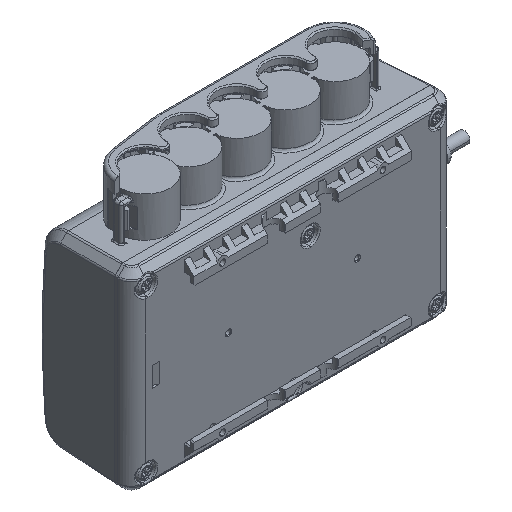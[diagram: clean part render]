
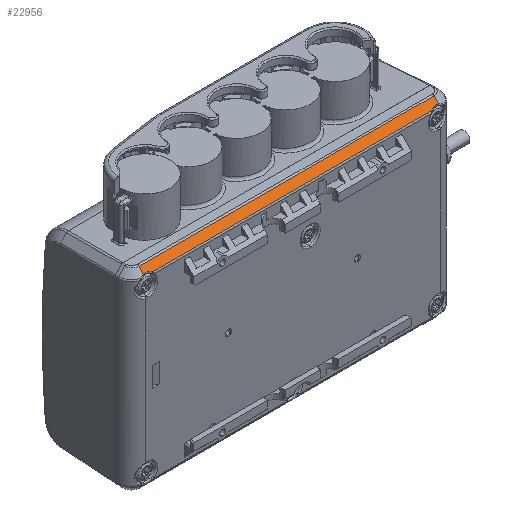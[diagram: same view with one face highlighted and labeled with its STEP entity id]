
A CAD part, isometric view. The second image highlights one B-rep face of the part: STEP entity #22956.
In plain terms, the highlighted planar face has unit normal (0, -0.731, 0.682).
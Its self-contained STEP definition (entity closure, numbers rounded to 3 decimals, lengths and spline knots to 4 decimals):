
#179 = DIRECTION ( 'NONE',  ( 0., 0.731, -0.682 ) ) ;
#695 = ORIENTED_EDGE ( 'NONE', *, *, #34438, .T. ) ;
#5685 = CARTESIAN_POINT ( 'NONE',  ( 0., -0.1576, -0.0055 ) ) ;
#7297 = VERTEX_POINT ( 'NONE', #57165 ) ;
#8635 = ORIENTED_EDGE ( 'NONE', *, *, #21203, .F. ) ;
#8913 = ORIENTED_EDGE ( 'NONE', *, *, #16347, .T. ) ;
#9006 = CARTESIAN_POINT ( 'NONE',  ( 5.1953, -0.243, -0.0972 ) ) ;
#10117 = CARTESIAN_POINT ( 'NONE',  ( 0.3295, -0.241, -0.095 ) ) ;
#11899 = FACE_OUTER_BOUND ( 'NONE', #18807, .T. ) ;
#12219 = B_SPLINE_CURVE_WITH_KNOTS ( 'NONE', 3,
 ( #16489, #53606, #22513, #17377 ),
 .UNSPECIFIED., .F., .F.,
 ( 4, 4 ),
 ( 0.2758, 0.9058 ),
 .UNSPECIFIED. ) ;
#14122 = CARTESIAN_POINT ( 'NONE',  ( 5.1497, -0.2333, -0.0867 ) ) ;
#15502 = CARTESIAN_POINT ( 'NONE',  ( 0.3686, -0.265, -0.1207 ) ) ;
#16347 = EDGE_CURVE ( 'NONE', #51033, #46889, #33648, .T. ) ;
#16489 = CARTESIAN_POINT ( 'NONE',  ( 5.1953, -0.243, -0.0972 ) ) ;
#16574 = CARTESIAN_POINT ( 'NONE',  ( 5.0644, -0.265, -0.1207 ) ) ;
#17377 = CARTESIAN_POINT ( 'NONE',  ( 5.1953, -0.1687, -0.0174 ) ) ;
#18807 = EDGE_LOOP ( 'NONE', ( #8635, #39218, #28001, #8913, #44194, #695 ) ) ;
#19473 = CARTESIAN_POINT ( 'NONE',  ( 0.3686, -0.265, -0.1207 ) ) ;
#21203 = EDGE_CURVE ( 'NONE', #7297, #60097, #59951, .T. ) ;
#22513 = CARTESIAN_POINT ( 'NONE',  ( 5.1953, -0.1935, -0.044 ) ) ;
#22956 = ADVANCED_FACE ( 'NONE', ( #11899 ), #63726, .F. ) ;
#24510 = VERTEX_POINT ( 'NONE', #28669 ) ;
#24603 = CARTESIAN_POINT ( 'NONE',  ( 5.0644, -0.265, -0.1207 ) ) ;
#25485 = LINE ( 'NONE', #68019, #47023 ) ;
#25977 = CARTESIAN_POINT ( 'NONE',  ( 0.2834, -0.2333, -0.0867 ) ) ;
#26671 = AXIS2_PLACEMENT_3D ( 'NONE', #5685, #179, #37305 ) ;
#28001 = ORIENTED_EDGE ( 'NONE', *, *, #54667, .T. ) ;
#28669 = CARTESIAN_POINT ( 'NONE',  ( 5.1953, -0.1687, -0.0174 ) ) ;
#29147 = DIRECTION ( 'NONE',  ( 1., 0., 0. ) ) ;
#30678 = CARTESIAN_POINT ( 'NONE',  ( 0.2377, -0.1687, -0.0174 ) ) ;
#33648 =( BOUNDED_CURVE ( )  B_SPLINE_CURVE ( 3, ( #24603, #45685, #14122, #9006 ),
 .UNSPECIFIED., .F., .F. ) 
 B_SPLINE_CURVE_WITH_KNOTS ( ( 4, 4 ),
 ( 2.5596, 3.3671 ),
 .UNSPECIFIED. ) 
 CURVE ( )  GEOMETRIC_REPRESENTATION_ITEM ( )  RATIONAL_B_SPLINE_CURVE ( ( 1., 0.946, 0.946, 1. ) ) 
 REPRESENTATION_ITEM ( '' )  );
#34438 = EDGE_CURVE ( 'NONE', #24510, #60097, #25485, .T. ) ;
#36183 = LINE ( 'NONE', #49503, #64393 ) ;
#37091 = CARTESIAN_POINT ( 'NONE',  ( 0.2377, -0.243, -0.0972 ) ) ;
#37305 = DIRECTION ( 'NONE',  ( 0., 0.682, 0.731 ) ) ;
#39218 = ORIENTED_EDGE ( 'NONE', *, *, #43387, .T. ) ;
#43387 = EDGE_CURVE ( 'NONE', #7297, #64620, #53106, .T. ) ;
#43781 = CARTESIAN_POINT ( 'NONE',  ( 5.1953, -0.243, -0.0972 ) ) ;
#44194 = ORIENTED_EDGE ( 'NONE', *, *, #46306, .T. ) ;
#45685 = CARTESIAN_POINT ( 'NONE',  ( 5.1036, -0.241, -0.095 ) ) ;
#46306 = EDGE_CURVE ( 'NONE', #46889, #24510, #12219, .T. ) ;
#46889 = VERTEX_POINT ( 'NONE', #43781 ) ;
#47023 = VECTOR ( 'NONE', #57571, 39.3701 ) ;
#49221 = CARTESIAN_POINT ( 'NONE',  ( 0.2377, -0.1687, -0.0174 ) ) ;
#49503 = CARTESIAN_POINT ( 'NONE',  ( 0., -0.265, -0.1207 ) ) ;
#51033 = VERTEX_POINT ( 'NONE', #16574 ) ;
#53106 =( BOUNDED_CURVE ( )  B_SPLINE_CURVE ( 3, ( #37091, #25977, #10117, #15502 ),
 .UNSPECIFIED., .F., .F. ) 
 B_SPLINE_CURVE_WITH_KNOTS ( ( 4, 4 ),
 ( 2.9161, 3.7235 ),
 .UNSPECIFIED. ) 
 CURVE ( )  GEOMETRIC_REPRESENTATION_ITEM ( )  RATIONAL_B_SPLINE_CURVE ( ( 1., 0.946, 0.946, 1. ) ) 
 REPRESENTATION_ITEM ( '' )  );
#53606 = CARTESIAN_POINT ( 'NONE',  ( 5.1953, -0.2182, -0.0706 ) ) ;
#54667 = EDGE_CURVE ( 'NONE', #64620, #51033, #36183, .T. ) ;
#57165 = CARTESIAN_POINT ( 'NONE',  ( 0.2377, -0.243, -0.0972 ) ) ;
#57571 = DIRECTION ( 'NONE',  ( -1., 0., 0. ) ) ;
#59951 = B_SPLINE_CURVE_WITH_KNOTS ( 'NONE', 1,
 ( #67952, #30678 ),
 .UNSPECIFIED., .F., .F.,
 ( 2, 2 ),
 ( 0.2758, 0.9058 ),
 .UNSPECIFIED. ) ;
#60097 = VERTEX_POINT ( 'NONE', #49221 ) ;
#63726 = PLANE ( 'NONE',  #26671 ) ;
#64393 = VECTOR ( 'NONE', #29147, 39.3701 ) ;
#64620 = VERTEX_POINT ( 'NONE', #19473 ) ;
#67952 = CARTESIAN_POINT ( 'NONE',  ( 0.2377, -0.243, -0.0972 ) ) ;
#68019 = CARTESIAN_POINT ( 'NONE',  ( 0., -0.1687, -0.0174 ) ) ;
